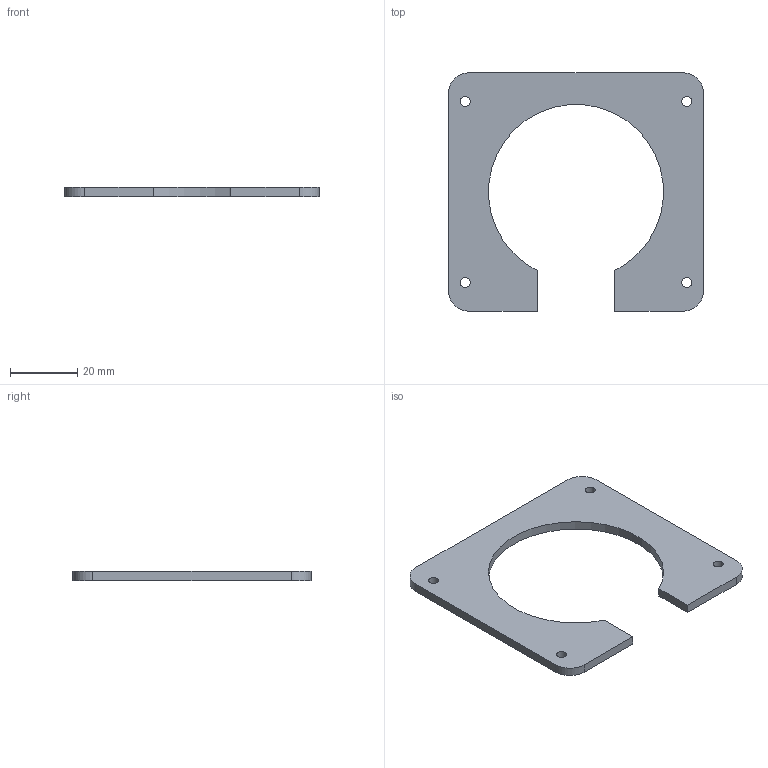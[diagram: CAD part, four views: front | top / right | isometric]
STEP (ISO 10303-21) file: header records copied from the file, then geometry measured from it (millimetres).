
FILE_DESCRIPTION(('Open CASCADE Model'),'2;1');
FILE_NAME('Open CASCADE Shape Model','2026-10-20T19:06:11',('Author'),( 'Open CASCADE'),'Open CASCADE STEP processor 7.9','Open CASCADE 7.9' ,'Unknown');
FILE_SCHEMA(('AUTOMOTIVE_DESIGN { 1 0 10303 214 1 1 1 1 }'));
Length unit declared in the file: millimetre
Products named in the file (1): Open CASCADE STEP translator 7.9 7
Bounding box: 76 x 71 x 2.7 mm (x, y, z)
Volume: 7993.4 mm3; surface area: 7170.3 mm2
Topology: 1 solids, 1 shells, 18 faces, 48 edges, 32 vertices
Faces by surface type: plane 9, cylinder 9
Full cylindrical faces by diameter (mm): 3 x4
Entity records: 1237 total; most frequent: CARTESIAN_POINT 277, DIRECTION 173, ORIENTED_EDGE 96, PCURVE 96, DEFINITIONAL_REPRESENTATION 96, LINE 92, VECTOR 92, EDGE_CURVE 48
